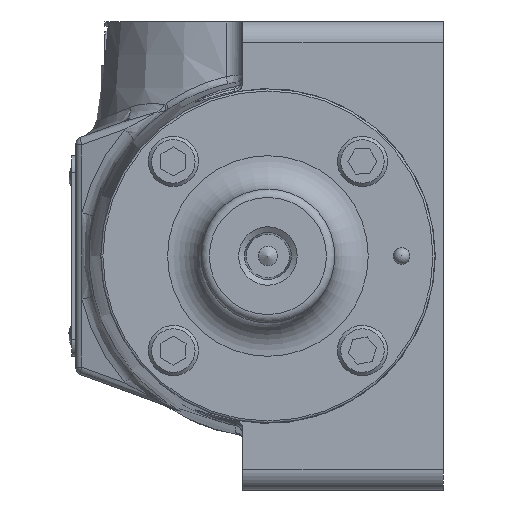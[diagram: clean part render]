
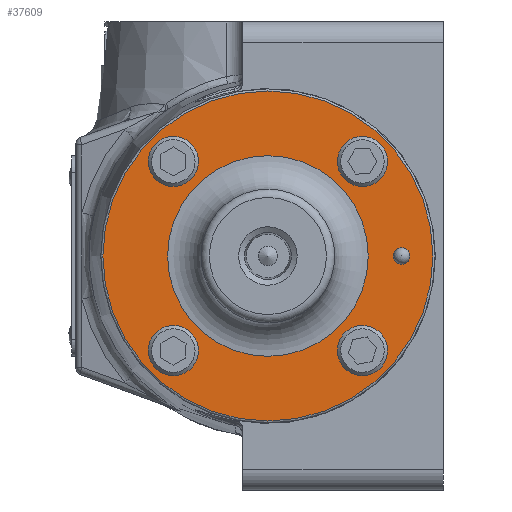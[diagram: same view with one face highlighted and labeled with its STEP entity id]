
A CAD part, left-side view. The second image highlights one B-rep face of the part: STEP entity #37609.
In plain terms, the highlighted planar face has unit normal (-1, 0, 0).
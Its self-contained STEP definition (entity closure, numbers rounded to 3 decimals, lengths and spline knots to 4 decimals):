
#2226=FACE_BOUND('',#5579,.T.);
#2227=FACE_BOUND('',#5580,.T.);
#2228=FACE_BOUND('',#5581,.T.);
#2229=FACE_BOUND('',#5582,.T.);
#2230=FACE_BOUND('',#5583,.T.);
#2231=FACE_BOUND('',#5584,.T.);
#2487=PLANE('',#39923);
#3317=FACE_OUTER_BOUND('',#5578,.T.);
#5578=EDGE_LOOP('',(#23784));
#5579=EDGE_LOOP('',(#23785));
#5580=EDGE_LOOP('',(#23786));
#5581=EDGE_LOOP('',(#23787));
#5582=EDGE_LOOP('',(#23788));
#5583=EDGE_LOOP('',(#23789,#23790));
#5584=EDGE_LOOP('',(#23791));
#8102=CIRCLE('',#39924,3.1353);
#8103=CIRCLE('',#39925,0.4763);
#8104=CIRCLE('',#39926,0.4763);
#8105=CIRCLE('',#39927,0.4763);
#8106=CIRCLE('',#39928,0.4763);
#8107=CIRCLE('',#39929,0.1588);
#8108=CIRCLE('',#39930,0.1588);
#8109=CIRCLE('',#39931,1.905);
#14716=VERTEX_POINT('',#53854);
#14717=VERTEX_POINT('',#53856);
#14718=VERTEX_POINT('',#53858);
#14719=VERTEX_POINT('',#53860);
#14720=VERTEX_POINT('',#53862);
#14721=VERTEX_POINT('',#53864);
#14722=VERTEX_POINT('',#53865);
#14723=VERTEX_POINT('',#53868);
#18247=EDGE_CURVE('',#14716,#14716,#8102,.T.);
#18248=EDGE_CURVE('',#14717,#14717,#8103,.T.);
#18249=EDGE_CURVE('',#14718,#14718,#8104,.T.);
#18250=EDGE_CURVE('',#14719,#14719,#8105,.T.);
#18251=EDGE_CURVE('',#14720,#14720,#8106,.T.);
#18252=EDGE_CURVE('',#14721,#14722,#8107,.T.);
#18253=EDGE_CURVE('',#14722,#14721,#8108,.T.);
#18254=EDGE_CURVE('',#14723,#14723,#8109,.T.);
#23784=ORIENTED_EDGE('',*,*,#18247,.F.);
#23785=ORIENTED_EDGE('',*,*,#18248,.T.);
#23786=ORIENTED_EDGE('',*,*,#18249,.T.);
#23787=ORIENTED_EDGE('',*,*,#18250,.T.);
#23788=ORIENTED_EDGE('',*,*,#18251,.T.);
#23789=ORIENTED_EDGE('',*,*,#18252,.T.);
#23790=ORIENTED_EDGE('',*,*,#18253,.T.);
#23791=ORIENTED_EDGE('',*,*,#18254,.F.);
#37609=ADVANCED_FACE('',(#3317,#2226,#2227,#2228,#2229,#2230,#2231),#2487,
 .F.);
#39923=AXIS2_PLACEMENT_3D('',#53853,#43783,#43784);
#39924=AXIS2_PLACEMENT_3D('',#53855,#43785,#43786);
#39925=AXIS2_PLACEMENT_3D('',#53857,#43787,#43788);
#39926=AXIS2_PLACEMENT_3D('',#53859,#43789,#43790);
#39927=AXIS2_PLACEMENT_3D('',#53861,#43791,#43792);
#39928=AXIS2_PLACEMENT_3D('',#53863,#43793,#43794);
#39929=AXIS2_PLACEMENT_3D('',#53866,#43795,#43796);
#39930=AXIS2_PLACEMENT_3D('',#53867,#43797,#43798);
#39931=AXIS2_PLACEMENT_3D('',#53869,#43799,#43800);
#43783=DIRECTION('center_axis',(1.,0.,0.));
#43784=DIRECTION('ref_axis',(0.,0.,
-1.));
#43785=DIRECTION('center_axis',(1.,0.,0.));
#43786=DIRECTION('ref_axis',(0.,0.,
-1.));
#43787=DIRECTION('center_axis',(1.,0.,0.));
#43788=DIRECTION('ref_axis',(0.,-0.004,
-1.));
#43789=DIRECTION('center_axis',(1.,0.,0.));
#43790=DIRECTION('ref_axis',(0.,-1.,-0.02));
#43791=DIRECTION('center_axis',(1.,0.,0.));
#43792=DIRECTION('ref_axis',(0.,-0.488,-0.873));
#43793=DIRECTION('center_axis',(1.,0.,0.));
#43794=DIRECTION('ref_axis',(0.,-0.2,-0.98));
#43795=DIRECTION('center_axis',(1.,0.,0.));
#43796=DIRECTION('ref_axis',(0.,0.,
-1.));
#43797=DIRECTION('center_axis',(1.,0.,0.));
#43798=DIRECTION('ref_axis',(0.,0.,
-1.));
#43799=DIRECTION('center_axis',(-1.,0.,0.));
#43800=DIRECTION('ref_axis',(0.,0.,
-1.));
#53853=CARTESIAN_POINT('Origin',(-6.1074,0.,0.));
#53854=CARTESIAN_POINT('',(-6.1074,0.,3.1353));
#53855=CARTESIAN_POINT('Origin',(-6.1074,0.,0.));
#53856=CARTESIAN_POINT('',(-6.1074,-1.7941,2.2723));
#53857=CARTESIAN_POINT('Origin',(-6.1074,-1.7961,1.7961));
#53858=CARTESIAN_POINT('',(-6.1074,2.2722,-1.7864));
#53859=CARTESIAN_POINT('Origin',(-6.1074,1.7961,-1.7961));
#53860=CARTESIAN_POINT('',(-6.1074,2.0283,2.2119));
#53861=CARTESIAN_POINT('Origin',(-6.1074,1.7961,1.7961));
#53862=CARTESIAN_POINT('',(-6.1074,-1.7009,-1.3294));
#53863=CARTESIAN_POINT('Origin',(-6.1074,-1.7961,-1.7961));
#53864=CARTESIAN_POINT('',(-6.1074,-2.54,0.1588));
#53865=CARTESIAN_POINT('',(-6.1074,-2.54,-0.1587));
#53866=CARTESIAN_POINT('Origin',(-6.1074,-2.54,0.));
#53867=CARTESIAN_POINT('Origin',(-6.1074,-2.54,0.));
#53868=CARTESIAN_POINT('',(-6.1074,0.,1.905));
#53869=CARTESIAN_POINT('Origin',(-6.1074,0.,0.));
